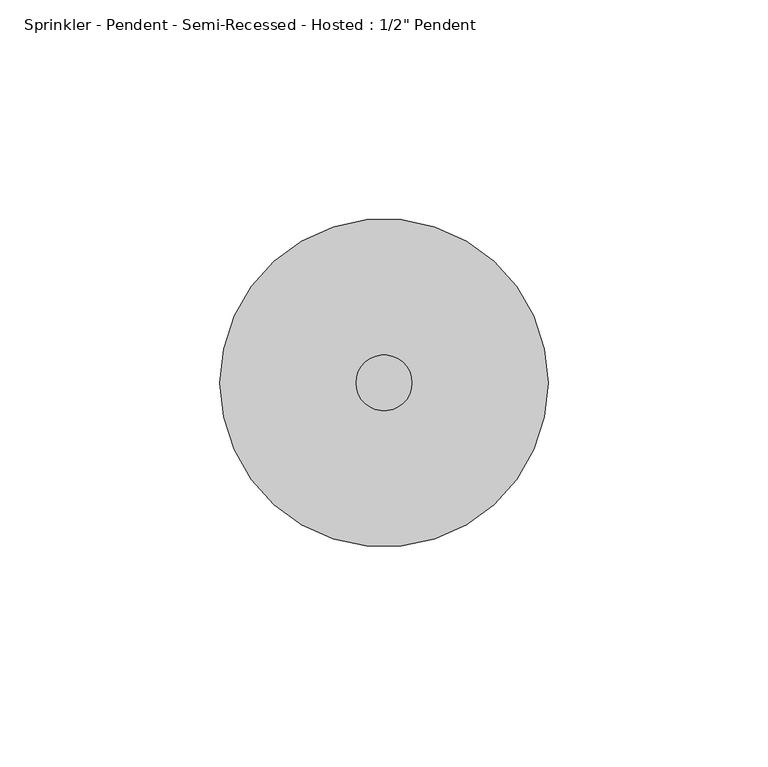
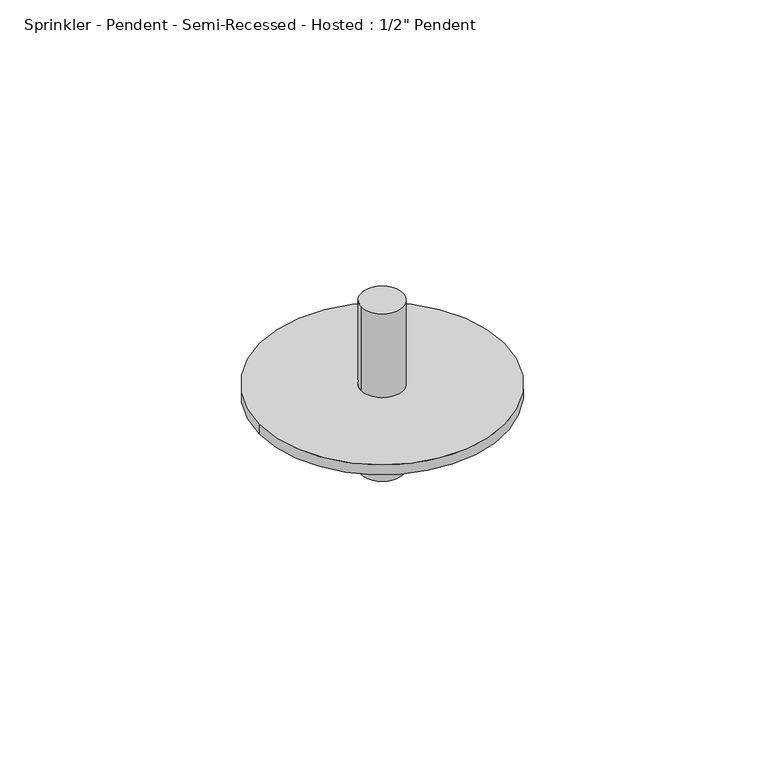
"""IFC4 building model written with IfcOpenShell, lengths in millimetres: fire suppression terminal geometry."""

from ifc_helpers import new_model, si_unit, frame, origin, origin_with_axes, place, context, project, spatial, circle_curve, source, transform, mapped, element, save
from ifc_brep_helpers import plane_surface, cylinder_surface, advanced_brep


def fire_suppression_terminal_51680e4f(model_context):
    return source(origin(), model_context, "Body", "AdvancedBrep", [
        advanced_brep(
        [(-37.30625, 0.0, 3.175), (37.30625, 0.0, 3.175), (6.35, 0.0, 3.175), (-6.35, 0.0, 3.175), (-37.30625, 0.0, 0.0), (37.30625, 0.0, 0.0), (-6.35, 0.0, 0.0), (6.35, 0.0, 0.0), (-6.35, 0.0, 30.1625), (6.35, 0.0, 30.1625), (-6.35, 0.0, -23.8125), (6.35, 0.0, -23.8125)],
        [
            (0, 1, circle_curve(frame((0.0, 0.0, 3.175), z_axis=(0.0, 0.0, 1.0), x_axis=(1.0, 0.0, 0.0)), 37.30625)),
            (1, 0, circle_curve(frame((0.0, 0.0, 3.175), z_axis=(0.0, 0.0, 1.0), x_axis=(1.0, 0.0, 0.0)), 37.30625)),
            (2, 3, circle_curve(frame((0.0, 0.0, 3.175), z_axis=(0.0, 0.0, -1.0), x_axis=(1.0, 0.0, 0.0)), 6.35)),
            (3, 2, circle_curve(frame((0.0, 0.0, 3.175), z_axis=(0.0, 0.0, -1.0), x_axis=(1.0, 0.0, 0.0)), 6.35)),
            (4, 5, circle_curve(frame((0.0, 0.0, 0.0), z_axis=(0.0, 0.0, -1.0), x_axis=(1.0, 0.0, 0.0)), 37.30625)),
            (5, 4, circle_curve(frame((0.0, 0.0, 0.0), z_axis=(0.0, 0.0, -1.0), x_axis=(1.0, 0.0, 0.0)), 37.30625)),
            (6, 7, circle_curve(origin_with_axes(), 6.35)),
            (7, 6, circle_curve(origin_with_axes(), 6.35)),
            (0, 4),
            (5, 1),
            (8, 9, circle_curve(frame((0.0, 0.0, 30.1625), z_axis=(0.0, 0.0, 1.0), x_axis=(1.0, 0.0, 0.0)), 6.35)),
            (9, 8, circle_curve(frame((0.0, 0.0, 30.1625), z_axis=(0.0, 0.0, 1.0), x_axis=(1.0, 0.0, 0.0)), 6.35)),
            (10, 11, circle_curve(frame((0.0, 0.0, -23.8125), z_axis=(0.0, 0.0, -1.0), x_axis=(1.0, 0.0, 0.0)), 6.35)),
            (11, 10, circle_curve(frame((0.0, 0.0, -23.8125), z_axis=(0.0, 0.0, -1.0), x_axis=(1.0, 0.0, 0.0)), 6.35)),
            (8, 3),
            (2, 9),
            (11, 7),
            (6, 10),
        ],
        [
            plane_surface(frame((37.30625, 0.0, 3.175), z_axis=(0.0, 0.0, 1.0), x_axis=(0.0, 1.0, 0.0))),
            plane_surface(frame((37.30625, 0.0, 0.0), z_axis=(0.0, 0.0, -1.0), x_axis=(0.0, -1.0, 0.0))),
            cylinder_surface(origin_with_axes(), 37.30625),
            plane_surface(frame((6.35, 0.0, 30.1625), z_axis=(0.0, 0.0, 1.0), x_axis=(0.0, 1.0, 0.0))),
            plane_surface(frame((6.35, 0.0, -23.8125), z_axis=(0.0, 0.0, -1.0), x_axis=(0.0, -1.0, 0.0))),
            cylinder_surface(frame((0.0, 0.0, -23.8125), z_axis=(0.0, 0.0, 1.0), x_axis=(1.0, 0.0, 0.0)), 6.35),
        ],
        [
            (0, [[1, 2], [3, 4]]),
            (1, [[5, 6], [7, 8]]),
            (2, [[-1, 9, -6, 10]]),
            (2, [[-2, -10, -5, -9]]),
            (3, [[11, 12]]),
            (4, [[13, 14]]),
            (5, [[-11, 15, -3, 16]]),
            (5, [[-14, 17, -7, 18]]),
            (5, [[-12, -16, -4, -15]]),
            (5, [[-13, -18, -8, -17]]),
        ],
    ),
    ])


if __name__ == "__main__":
    model = new_model("IFC4")
    model_context = context("Model", 3, world=origin())
    ifc_project = project(units=[si_unit("LENGTHUNIT", "METRE", prefix="MILLI")], contexts=[model_context])
    site = spatial("IfcSite", under=ifc_project)
    building = spatial("IfcBuilding", under=site)
    placement = place(None, origin())
    fire_suppression_terminal_shape = fire_suppression_terminal_51680e4f(model_context)
    element("IfcFireSuppressionTerminal", 1, ObjectType="Sprinkler - Pendent - Semi-Recessed - Hosted : 1/2\" Pendent", at=placement, inside=building, context=model_context, shape_type="MappedRepresentation", body=[
        mapped(fire_suppression_terminal_shape, transform((0.0, 0.0, 0.0), x_axis=(1.0, 0.0, 0.0), y_axis=(0.0, 1.0, 0.0), z_axis=(0.0, 0.0, 1.0))),
    ])
    save(model, "model.ifc")
